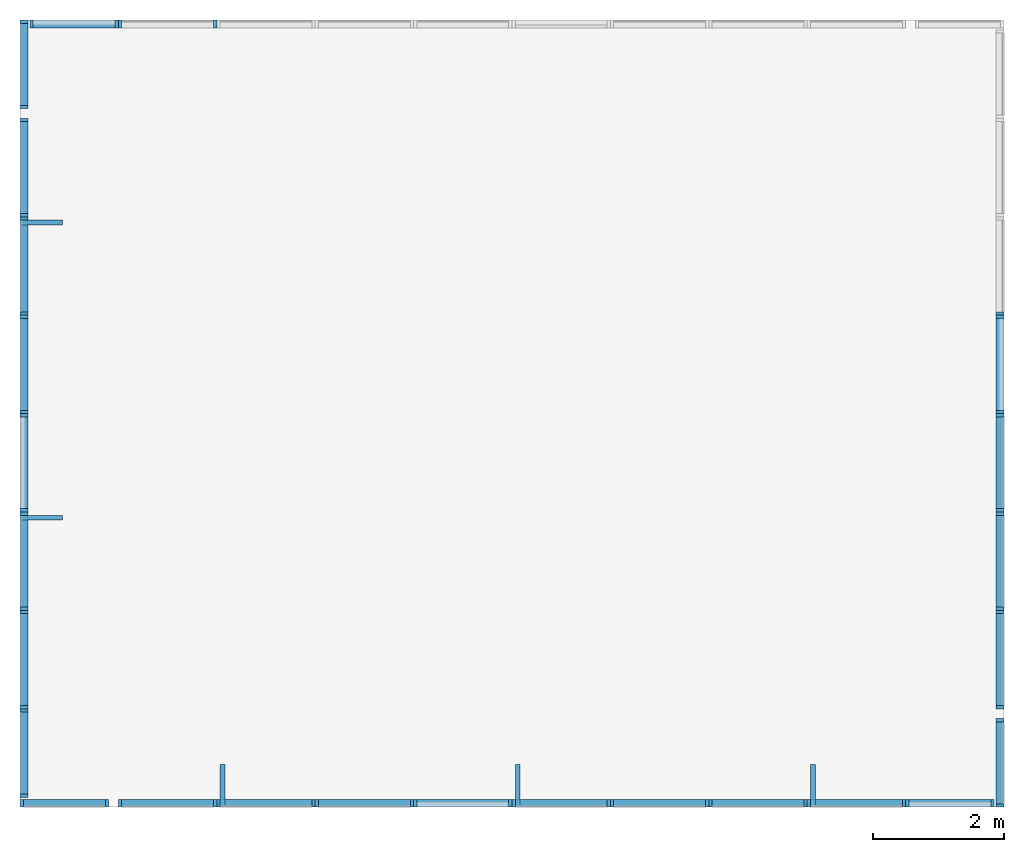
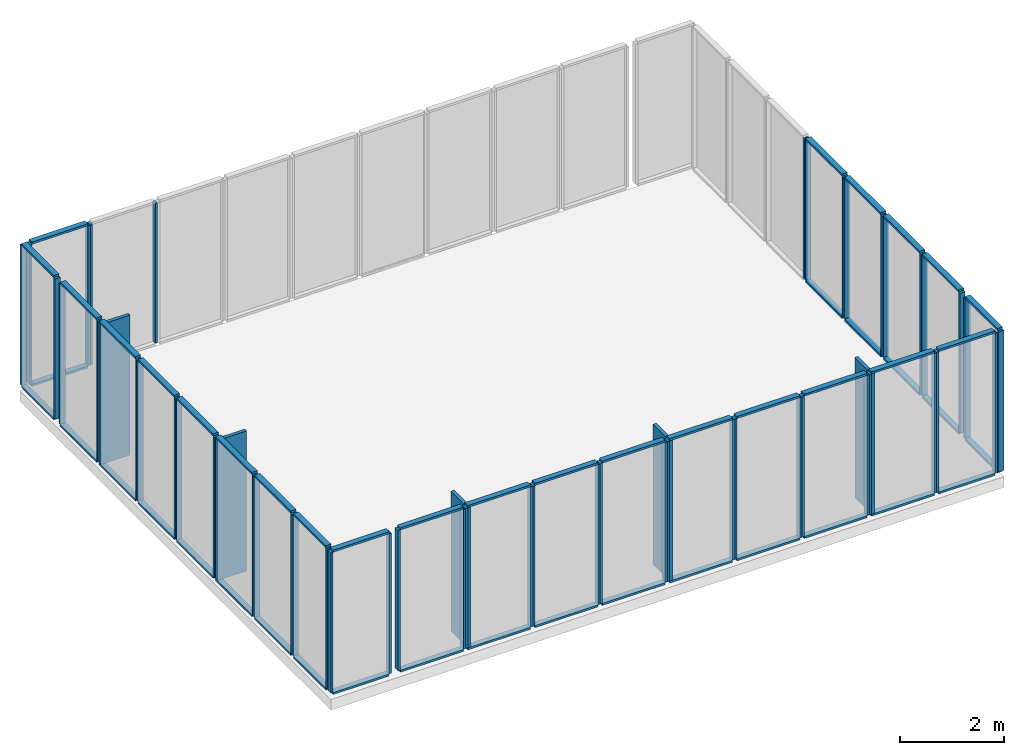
# One storey, part 1 of 2: 104 members.
"""IFC4 building model written with IfcOpenShell, lengths in metres."""

import ifcopenshell
import ifcopenshell.guid

model = None  # the IFC model being written
_history = None  # IfcOwnerHistory: only IFC2X3 demands one
_inside = {}  # id of a spatial element -> (the spatial element, [elements in it])
_under = {}  # id of a project, library or spatial element -> (it, [spatial elements below it])
_declared = {}  # id of a project -> (the project, [libraries it declares])
_typed = {}  # id of a type object -> (the type object, [elements of that type])
_made_of = {}  # id of a material, layer set ... -> (it, [elements and type objects made of it])


def new_model(schema):
    """Start an empty IFC model of exactly this schema.

    Asked for "IFC4X3", IfcOpenShell would pick the latest addendum, in which some entities
    have other attributes; the version numbers below select the first issue.
    IFC2X3 requires an IfcOwnerHistory on every rooted entity: one is made here for all.
    """
    global model, _history
    if schema == "IFC4X3":
        model = ifcopenshell.file(schema_version=(4, 3, 0, 0))
    else:
        model = ifcopenshell.file(schema=schema)
    _inside.clear()
    _under.clear()
    _declared.clear()
    _typed.clear()
    _made_of.clear()
    _history = None
    if model.schema == "IFC2X3":
        org = make("IfcOrganization", Name="unknown")
        user = make(
            "IfcPersonAndOrganization",
            ThePerson=make("IfcPerson", FamilyName="unknown"),
            TheOrganization=org,
        )
        app = make(
            "IfcApplication",
            ApplicationDeveloper=org,
            Version="unknown",
            ApplicationFullName="unknown",
            ApplicationIdentifier="unknown",
        )
        _history = make(
            "IfcOwnerHistory",
            OwningUser=user,
            OwningApplication=app,
            ChangeAction="ADDED",
            CreationDate=0,
        )
    return model


def make(cls, **values):
    """One entity of the class cls with the attributes given. An attribute that is None is left unset."""
    return model.create_entity(
        cls, **{name: value for name, value in values.items() if value is not None}
    )


def rooted(cls, **values):
    """An entity with a GlobalId (a new one), such as an element, a storey or a relation."""
    return make(cls, GlobalId=ifcopenshell.guid.new(), OwnerHistory=_history, **values)


def si_unit(unit_type, name, prefix=None):
    """IfcSIUnit, for example si_unit("LENGTHUNIT", "METRE", prefix="MILLI")."""
    return make("IfcSIUnit", UnitType=unit_type, Prefix=prefix, Name=name)


def assignment(units):
    """IfcUnitAssignment: the units of a project."""
    return None if units is None else make("IfcUnitAssignment", Units=units)


def point(xyz):
    """IfcCartesianPoint."""
    return None if xyz is None else make("IfcCartesianPoint", Coordinates=xyz)


def direction(xyz):
    """IfcDirection."""
    return None if xyz is None else make("IfcDirection", DirectionRatios=xyz)


def frame(location, z_axis=None, x_axis=None):
    """IfcAxis2Placement3D, a coordinate frame: its origin and axes. An axis left out is left unset."""
    return make(
        "IfcAxis2Placement3D",
        Location=point(location),
        Axis=direction(z_axis),
        RefDirection=direction(x_axis),
    )


def origin_with_axes():
    """The frame at (0, 0, 0) with the z axis (0, 0, 1) and the x axis (1, 0, 0) written out."""
    return frame((0.0, 0.0, 0.0), z_axis=(0.0, 0.0, 1.0), x_axis=(1.0, 0.0, 0.0))


def place(relative_to, where):
    """IfcLocalPlacement: puts the frame where relative to a parent placement (None: the world)."""
    return make(
        "IfcLocalPlacement", PlacementRelTo=relative_to, RelativePlacement=where
    )


def context(
    kind, dimensions, precision=None, world=None, true_north=None, identifier=None
):
    """IfcGeometricRepresentationContext, for example the 3D "Model" context."""
    return make(
        "IfcGeometricRepresentationContext",
        ContextIdentifier=identifier,
        ContextType=kind,
        CoordinateSpaceDimension=dimensions,
        Precision=precision,
        WorldCoordinateSystem=world,
        TrueNorth=true_north,
    )


def subcontext(parent, identifier, kind, view, scale=None):
    """IfcGeometricRepresentationSubContext, for example "Body" below "Model"."""
    return make(
        "IfcGeometricRepresentationSubContext",
        ContextIdentifier=identifier,
        ContextType=kind,
        ParentContext=parent,
        TargetScale=scale,
        TargetView=view,
    )


def project(units=None, contexts=None):
    """IfcProject with its units and contexts."""
    return rooted(
        "IfcProject",
        Name="project",
        RepresentationContexts=contexts,
        UnitsInContext=assignment(units),
    )


def spatial(cls, under=None, at=None, **own):
    """A site, building, storey or space (cls), placed at a placement, below another one or the project."""
    s = rooted(cls, ObjectPlacement=at, **own)
    if under is not None:
        _under.setdefault(under.id(), (under, []))[1].append(s)
    return s


def point_list(points):
    """IfcCartesianPointList2D or 3D."""
    cls = (
        "IfcCartesianPointList2D" if len(points[0]) == 2 else "IfcCartesianPointList3D"
    )
    return make(cls, CoordList=points)


def indexed_curve(points, segments=None, self_intersect=None):
    """IfcIndexedPolyCurve: lines and arcs through numbered points (the first is 1)."""
    return make(
        "IfcIndexedPolyCurve",
        Points=point_list(points),
        Segments=segments,
        SelfIntersect=self_intersect,
    )


def outline(outer, holes=None, kind="AREA"):
    """IfcArbitraryClosedProfileDef: a profile drawn as a closed curve; with holes, ...WithVoids."""
    if holes is None:
        return make("IfcArbitraryClosedProfileDef", ProfileType=kind, OuterCurve=outer)
    return make(
        "IfcArbitraryProfileDefWithVoids",
        ProfileType=kind,
        OuterCurve=outer,
        InnerCurves=holes,
    )


def extrude(swept, where, along, depth):
    """IfcExtrudedAreaSolid: the profile swept, set in the frame where, extruded along a direction by depth."""
    return make(
        "IfcExtrudedAreaSolid",
        SweptArea=swept,
        Position=where,
        ExtrudedDirection=direction(along),
        Depth=depth,
    )


def shape(context_of_items, identifier, shape_type, items):
    """IfcShapeRepresentation: the items that make up one representation, for example the "Body"."""
    return make(
        "IfcShapeRepresentation",
        ContextOfItems=context_of_items,
        RepresentationIdentifier=identifier,
        RepresentationType=shape_type,
        Items=items,
    )


def material(Name=None, Category=None):
    """IfcMaterial."""
    return make("IfcMaterial", Name=Name, Category=Category)


def made_of(thing, what):
    """Note that an element or type object is made of a material, layer set ...; save() writes the relation."""
    if what is not None:
        _made_of.setdefault(what.id(), (what, []))[1].append(thing)
    return thing


def element(
    cls,
    number,
    at=None,
    inside=None,
    cuts=None,
    type_object=None,
    material=None,
    context=None,
    identifier="Body",
    shape_type=None,
    held_by="IfcProductDefinitionShape",
    body=None,
    shapes=None,
    **own,
):
    """One element of the class cls, such as IfcWall. Its Tag is "e" and its number.

    at: its placement. inside: the storey or other place that contains it. cuts: it is an
    opening in that element (IfcRelVoidsElement). A single representation is given by context,
    identifier, shape_type and body (its items); several are given by shapes. held_by: the class
    of the entity that holds the representations. save() writes the other relations.
    """
    e = rooted(cls, Tag="e%d" % number, ObjectPlacement=at, **own)
    if body is not None:
        shapes = [shape(context, identifier, shape_type, body)]
    if shapes is not None:
        e.Representation = make(held_by, Representations=shapes)
    if inside is not None:
        _inside.setdefault(inside.id(), (inside, []))[1].append(e)
    if cuts is not None:
        rooted(
            "IfcRelVoidsElement", RelatingBuildingElement=cuts, RelatedOpeningElement=e
        )
    if type_object is not None:
        _typed.setdefault(type_object.id(), (type_object, []))[1].append(e)
    return made_of(e, material)


def aggregate(whole, parts):
    """IfcRelAggregates: a whole, such as a stair, and the parts it consists of."""
    return rooted("IfcRelAggregates", RelatingObject=whole, RelatedObjects=parts)


def save(model, path):
    """Write the relations noted so far, then the file.

    IfcRelAggregates (storeys below a building ...), IfcRelContainedInSpatialStructure (elements
    in a storey), IfcRelDefinesByType, IfcRelAssociatesMaterial and IfcRelDeclares: one each for
    every whole, place, type object, material and project.
    """
    for whole, parts in _under.values():
        aggregate(whole, parts)
    for where, things in _inside.values():
        rooted(
            "IfcRelContainedInSpatialStructure",
            RelatedElements=things,
            RelatingStructure=where,
        )
    for kind, things in _typed.values():
        rooted("IfcRelDefinesByType", RelatedObjects=things, RelatingType=kind)
    for what, things in _made_of.values():
        rooted("IfcRelAssociatesMaterial", RelatedObjects=things, RelatingMaterial=what)
    for by, libraries in _declared.values():
        rooted("IfcRelDeclares", RelatingContext=by, RelatedDefinitions=libraries)
    model.write(path)


model = new_model("IFC4")

# Units and contexts
model_context = context("Model", 3, precision=1e-05, world=origin_with_axes())
body_context = subcontext(model_context, "Body", "Model", "MODEL_VIEW")
ifc_project = project(units=[si_unit("AREAUNIT", "SQUARE_METRE"), si_unit("VOLUMEUNIT", "CUBIC_METRE"), si_unit("LENGTHUNIT", "METRE")], contexts=[model_context])

# Site, building, storey
site = spatial("IfcSite", under=ifc_project, Name="Synthetic Site")
building = spatial("IfcBuilding", under=site, Name="Complex Tower")
storey_placement = place(None, frame((0.0, 0.0, 37.8), z_axis=(0.0, 0.0, 1.0), x_axis=(1.0, 0.0, 0.0)))
storey = spatial("IfcBuildingStorey", under=building, at=storey_placement, Name="L11", Elevation=37.8)

# Members
ifc_material = material(Name="Aluminium")
for number, where, z_axis, x_axis, name in (
    (1, (6.0, 3.0, 0.14999999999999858), (0.0, 0.0, 1.0), (1.0, 0.0, 0.0), "CT-L11-S-001-ML"),
    (2, (7.3, 3.0, 0.14999999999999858), (0.0, 0.0, 1.0), (1.0, 0.0, 0.0), "CT-L11-S-001-MR"),
):
    element("IfcMember", number, at=place(storey_placement, frame(where, z_axis=z_axis, x_axis=x_axis)), inside=storey, material=ifc_material, Name=name, PredefinedType="MULLION", context=body_context, shape_type="SweptSolid", body=[
        extrude(outline(indexed_curve([(0.0, 0.0), (0.0, 0.12), (0.05, 0.12), (0.05, 0.0), (0.0, 0.0)], self_intersect=False)), origin_with_axes(), (0.0, 0.0, 1.0), 3.3000000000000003),
    ])
for number, where, z_axis, x_axis, name in (
    (3, (6.05, 3.0, 0.10000000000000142), (0.0, 0.0, 1.0), (1.0, 0.0, 0.0), "CT-L11-S-001-FB"),
    (4, (6.05, 3.0, 3.4499999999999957), (0.0, 0.0, 1.0), (1.0, 0.0, 0.0), "CT-L11-S-001-FT"),
):
    element("IfcMember", number, at=place(storey_placement, frame(where, z_axis=z_axis, x_axis=x_axis)), inside=storey, material=ifc_material, Name=name, PredefinedType="MULLION", context=body_context, shape_type="SweptSolid", body=[
        extrude(outline(indexed_curve([(0.0, 0.0), (0.0, 0.12), (1.25, 0.12), (1.25, 0.0), (0.0, 0.0)], self_intersect=False)), origin_with_axes(), (0.0, 0.0, 1.0), 0.05),
    ])
for number, where, z_axis, x_axis, name in (
    (5, (7.5, 3.0, 0.14999999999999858), (0.0, 0.0, 1.0), (1.0, 0.0, 0.0), "CT-L11-S-002-ML"),
    (6, (8.95, 3.0, 0.14999999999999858), (0.0, 0.0, 1.0), (1.0, 0.0, 0.0), "CT-L11-S-002-MR"),
):
    element("IfcMember", number, at=place(storey_placement, frame(where, z_axis=z_axis, x_axis=x_axis)), inside=storey, material=ifc_material, Name=name, PredefinedType="MULLION", context=body_context, shape_type="SweptSolid", body=[
        extrude(outline(indexed_curve([(0.0, 0.0), (0.0, 0.12), (0.05, 0.12), (0.05, 0.0), (0.0, 0.0)], self_intersect=False)), origin_with_axes(), (0.0, 0.0, 1.0), 3.3000000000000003),
    ])
for number, where, z_axis, x_axis, name in (
    (7, (7.55, 3.0, 0.10000000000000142), (0.0, 0.0, 1.0), (1.0, 0.0, 0.0), "CT-L11-S-002-FB"),
    (8, (7.55, 3.0, 3.4499999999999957), (0.0, 0.0, 1.0), (1.0, 0.0, 0.0), "CT-L11-S-002-FT"),
):
    element("IfcMember", number, at=place(storey_placement, frame(where, z_axis=z_axis, x_axis=x_axis)), inside=storey, material=ifc_material, Name=name, PredefinedType="MULLION", context=body_context, shape_type="SweptSolid", body=[
        extrude(outline(indexed_curve([(0.0, 0.0), (0.0, 0.12), (1.4, 0.12), (1.4, 0.0), (0.0, 0.0)], self_intersect=False)), origin_with_axes(), (0.0, 0.0, 1.0), 0.05),
    ])
for number, where, z_axis, x_axis, name in (
    (9, (9.0, 3.0, 0.14999999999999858), (0.0, 0.0, 1.0), (1.0, 0.0, 0.0), "CT-L11-S-003-ML"),
    (10, (10.450000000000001, 3.0, 0.14999999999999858), (0.0, 0.0, 1.0), (1.0, 0.0, 0.0), "CT-L11-S-003-MR"),
):
    element("IfcMember", number, at=place(storey_placement, frame(where, z_axis=z_axis, x_axis=x_axis)), inside=storey, material=ifc_material, Name=name, PredefinedType="MULLION", context=body_context, shape_type="SweptSolid", body=[
        extrude(outline(indexed_curve([(0.0, 0.0), (0.0, 0.12), (0.05, 0.12), (0.05, 0.0), (0.0, 0.0)], self_intersect=False)), origin_with_axes(), (0.0, 0.0, 1.0), 3.3000000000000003),
    ])
for number, where, z_axis, x_axis, name in (
    (11, (9.05, 3.0, 0.10000000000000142), (0.0, 0.0, 1.0), (1.0, 0.0, 0.0), "CT-L11-S-003-FB"),
    (12, (9.05, 3.0, 3.4499999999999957), (0.0, 0.0, 1.0), (1.0, 0.0, 0.0), "CT-L11-S-003-FT"),
):
    element("IfcMember", number, at=place(storey_placement, frame(where, z_axis=z_axis, x_axis=x_axis)), inside=storey, material=ifc_material, Name=name, PredefinedType="MULLION", context=body_context, shape_type="SweptSolid", body=[
        extrude(outline(indexed_curve([(0.0, 0.0), (0.0, 0.12), (1.4, 0.12), (1.4, 0.0), (0.0, 0.0)], self_intersect=False)), origin_with_axes(), (0.0, 0.0, 1.0), 0.05),
    ])
member_1_placement = place(storey_placement, frame((9.05, 3.0, 0.14999999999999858), z_axis=(0.0, 0.0, 1.0), x_axis=(1.0, 0.0, 0.0)))
element("IfcMember", 13, at=member_1_placement, inside=storey, material=ifc_material, Name="CT-L11-S-003-FIN", ObjectType="Solar shading", PredefinedType="USERDEFINED", context=body_context, shape_type="SweptSolid", body=[
    extrude(outline(indexed_curve([(0.0, 0.0), (0.0, 0.65), (0.075, 0.65), (0.075, 0.0), (0.0, 0.0)], self_intersect=False)), origin_with_axes(), (0.0, 0.0, 1.0), 3.3000000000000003),
])
for number, where, z_axis, x_axis, name in (
    (14, (10.5, 3.0, 0.14999999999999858), (0.0, 0.0, 1.0), (1.0, 0.0, 0.0), "CT-L11-S-004-ML"),
    (15, (11.950000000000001, 3.0, 0.14999999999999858), (0.0, 0.0, 1.0), (1.0, 0.0, 0.0), "CT-L11-S-004-MR"),
):
    element("IfcMember", number, at=place(storey_placement, frame(where, z_axis=z_axis, x_axis=x_axis)), inside=storey, material=ifc_material, Name=name, PredefinedType="MULLION", context=body_context, shape_type="SweptSolid", body=[
        extrude(outline(indexed_curve([(0.0, 0.0), (0.0, 0.12), (0.05, 0.12), (0.05, 0.0), (0.0, 0.0)], self_intersect=False)), origin_with_axes(), (0.0, 0.0, 1.0), 3.3000000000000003),
    ])
for number, where, z_axis, x_axis, name in (
    (16, (10.55, 3.0, 0.10000000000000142), (0.0, 0.0, 1.0), (1.0, 0.0, 0.0), "CT-L11-S-004-FB"),
    (17, (10.55, 3.0, 3.4499999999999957), (0.0, 0.0, 1.0), (1.0, 0.0, 0.0), "CT-L11-S-004-FT"),
):
    element("IfcMember", number, at=place(storey_placement, frame(where, z_axis=z_axis, x_axis=x_axis)), inside=storey, material=ifc_material, Name=name, PredefinedType="MULLION", context=body_context, shape_type="SweptSolid", body=[
        extrude(outline(indexed_curve([(0.0, 0.0), (0.0, 0.12), (1.4, 0.12), (1.4, 0.0), (0.0, 0.0)], self_intersect=False)), origin_with_axes(), (0.0, 0.0, 1.0), 0.05),
    ])
for number, where, z_axis, x_axis, name in (
    (18, (12.0, 3.0, 0.14999999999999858), (0.0, 0.0, 1.0), (1.0, 0.0, 0.0), "CT-L11-S-005-ML"),
    (19, (13.450000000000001, 3.0, 0.14999999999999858), (0.0, 0.0, 1.0), (1.0, 0.0, 0.0), "CT-L11-S-005-MR"),
):
    element("IfcMember", number, at=place(storey_placement, frame(where, z_axis=z_axis, x_axis=x_axis)), inside=storey, material=ifc_material, Name=name, PredefinedType="MULLION", context=body_context, shape_type="SweptSolid", body=[
        extrude(outline(indexed_curve([(0.0, 0.0), (0.0, 0.12), (0.05, 0.12), (0.05, 0.0), (0.0, 0.0)], self_intersect=False)), origin_with_axes(), (0.0, 0.0, 1.0), 3.3000000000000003),
    ])
for number, where, z_axis, x_axis, name in (
    (20, (12.05, 3.0, 0.10000000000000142), (0.0, 0.0, 1.0), (1.0, 0.0, 0.0), "CT-L11-S-005-FB"),
    (21, (12.05, 3.0, 3.4499999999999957), (0.0, 0.0, 1.0), (1.0, 0.0, 0.0), "CT-L11-S-005-FT"),
):
    element("IfcMember", number, at=place(storey_placement, frame(where, z_axis=z_axis, x_axis=x_axis)), inside=storey, material=ifc_material, Name=name, PredefinedType="MULLION", context=body_context, shape_type="SweptSolid", body=[
        extrude(outline(indexed_curve([(0.0, 0.0), (0.0, 0.12), (1.4, 0.12), (1.4, 0.0), (0.0, 0.0)], self_intersect=False)), origin_with_axes(), (0.0, 0.0, 1.0), 0.05),
    ])
for number, where, z_axis, x_axis, name in (
    (22, (13.5, 3.0, 0.14999999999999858), (0.0, 0.0, 1.0), (1.0, 0.0, 0.0), "CT-L11-S-006-ML"),
    (23, (14.950000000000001, 3.0, 0.14999999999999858), (0.0, 0.0, 1.0), (1.0, 0.0, 0.0), "CT-L11-S-006-MR"),
):
    element("IfcMember", number, at=place(storey_placement, frame(where, z_axis=z_axis, x_axis=x_axis)), inside=storey, material=ifc_material, Name=name, PredefinedType="MULLION", context=body_context, shape_type="SweptSolid", body=[
        extrude(outline(indexed_curve([(0.0, 0.0), (0.0, 0.12), (0.05, 0.12), (0.05, 0.0), (0.0, 0.0)], self_intersect=False)), origin_with_axes(), (0.0, 0.0, 1.0), 3.3000000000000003),
    ])
for number, where, z_axis, x_axis, name in (
    (24, (13.55, 3.0, 0.10000000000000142), (0.0, 0.0, 1.0), (1.0, 0.0, 0.0), "CT-L11-S-006-FB"),
    (25, (13.55, 3.0, 3.4499999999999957), (0.0, 0.0, 1.0), (1.0, 0.0, 0.0), "CT-L11-S-006-FT"),
):
    element("IfcMember", number, at=place(storey_placement, frame(where, z_axis=z_axis, x_axis=x_axis)), inside=storey, material=ifc_material, Name=name, PredefinedType="MULLION", context=body_context, shape_type="SweptSolid", body=[
        extrude(outline(indexed_curve([(0.0, 0.0), (0.0, 0.12), (1.4, 0.12), (1.4, 0.0), (0.0, 0.0)], self_intersect=False)), origin_with_axes(), (0.0, 0.0, 1.0), 0.05),
    ])
member_2_placement = place(storey_placement, frame((13.55, 3.0, 0.14999999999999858), z_axis=(0.0, 0.0, 1.0), x_axis=(1.0, 0.0, 0.0)))
element("IfcMember", 26, at=member_2_placement, inside=storey, material=ifc_material, Name="CT-L11-S-006-FIN", ObjectType="Solar shading", PredefinedType="USERDEFINED", context=body_context, shape_type="SweptSolid", body=[
    extrude(outline(indexed_curve([(0.0, 0.0), (0.0, 0.65), (0.075, 0.65), (0.075, 0.0), (0.0, 0.0)], self_intersect=False)), origin_with_axes(), (0.0, 0.0, 1.0), 3.3000000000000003),
])
for number, where, z_axis, x_axis, name in (
    (27, (15.0, 3.0, 0.14999999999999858), (0.0, 0.0, 1.0), (1.0, 0.0, 0.0), "CT-L11-S-007-ML"),
    (28, (16.45, 3.0, 0.14999999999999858), (0.0, 0.0, 1.0), (1.0, 0.0, 0.0), "CT-L11-S-007-MR"),
):
    element("IfcMember", number, at=place(storey_placement, frame(where, z_axis=z_axis, x_axis=x_axis)), inside=storey, material=ifc_material, Name=name, PredefinedType="MULLION", context=body_context, shape_type="SweptSolid", body=[
        extrude(outline(indexed_curve([(0.0, 0.0), (0.0, 0.12), (0.05, 0.12), (0.05, 0.0), (0.0, 0.0)], self_intersect=False)), origin_with_axes(), (0.0, 0.0, 1.0), 3.3000000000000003),
    ])
for number, where, z_axis, x_axis, name in (
    (29, (15.05, 3.0, 0.10000000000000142), (0.0, 0.0, 1.0), (1.0, 0.0, 0.0), "CT-L11-S-007-FB"),
    (30, (15.05, 3.0, 3.4499999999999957), (0.0, 0.0, 1.0), (1.0, 0.0, 0.0), "CT-L11-S-007-FT"),
):
    element("IfcMember", number, at=place(storey_placement, frame(where, z_axis=z_axis, x_axis=x_axis)), inside=storey, material=ifc_material, Name=name, PredefinedType="MULLION", context=body_context, shape_type="SweptSolid", body=[
        extrude(outline(indexed_curve([(0.0, 0.0), (0.0, 0.12), (1.4, 0.12), (1.4, 0.0), (0.0, 0.0)], self_intersect=False)), origin_with_axes(), (0.0, 0.0, 1.0), 0.05),
    ])
for number, where, z_axis, x_axis, name in (
    (31, (16.5, 3.0, 0.14999999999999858), (0.0, 0.0, 1.0), (1.0, 0.0, 0.0), "CT-L11-S-008-ML"),
    (32, (17.95, 3.0, 0.14999999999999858), (0.0, 0.0, 1.0), (1.0, 0.0, 0.0), "CT-L11-S-008-MR"),
):
    element("IfcMember", number, at=place(storey_placement, frame(where, z_axis=z_axis, x_axis=x_axis)), inside=storey, material=ifc_material, Name=name, PredefinedType="MULLION", context=body_context, shape_type="SweptSolid", body=[
        extrude(outline(indexed_curve([(0.0, 0.0), (0.0, 0.12), (0.05, 0.12), (0.05, 0.0), (0.0, 0.0)], self_intersect=False)), origin_with_axes(), (0.0, 0.0, 1.0), 3.3000000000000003),
    ])
for number, where, z_axis, x_axis, name in (
    (33, (16.55, 3.0, 0.10000000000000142), (0.0, 0.0, 1.0), (1.0, 0.0, 0.0), "CT-L11-S-008-FB"),
    (34, (16.55, 3.0, 3.4499999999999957), (0.0, 0.0, 1.0), (1.0, 0.0, 0.0), "CT-L11-S-008-FT"),
):
    element("IfcMember", number, at=place(storey_placement, frame(where, z_axis=z_axis, x_axis=x_axis)), inside=storey, material=ifc_material, Name=name, PredefinedType="MULLION", context=body_context, shape_type="SweptSolid", body=[
        extrude(outline(indexed_curve([(0.0, 0.0), (0.0, 0.12), (1.4, 0.12), (1.4, 0.0), (0.0, 0.0)], self_intersect=False)), origin_with_axes(), (0.0, 0.0, 1.0), 0.05),
    ])
for number, where, z_axis, x_axis, name in (
    (35, (18.0, 3.0, 0.14999999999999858), (0.0, 0.0, 1.0), (1.0, 0.0, 0.0), "CT-L11-S-009-ML"),
    (36, (19.45, 3.0, 0.14999999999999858), (0.0, 0.0, 1.0), (1.0, 0.0, 0.0), "CT-L11-S-009-MR"),
):
    element("IfcMember", number, at=place(storey_placement, frame(where, z_axis=z_axis, x_axis=x_axis)), inside=storey, material=ifc_material, Name=name, PredefinedType="MULLION", context=body_context, shape_type="SweptSolid", body=[
        extrude(outline(indexed_curve([(0.0, 0.0), (0.0, 0.12), (0.05, 0.12), (0.05, 0.0), (0.0, 0.0)], self_intersect=False)), origin_with_axes(), (0.0, 0.0, 1.0), 3.3000000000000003),
    ])
for number, where, z_axis, x_axis, name in (
    (37, (18.05, 3.0, 0.10000000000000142), (0.0, 0.0, 1.0), (1.0, 0.0, 0.0), "CT-L11-S-009-FB"),
    (38, (18.05, 3.0, 3.4499999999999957), (0.0, 0.0, 1.0), (1.0, 0.0, 0.0), "CT-L11-S-009-FT"),
):
    element("IfcMember", number, at=place(storey_placement, frame(where, z_axis=z_axis, x_axis=x_axis)), inside=storey, material=ifc_material, Name=name, PredefinedType="MULLION", context=body_context, shape_type="SweptSolid", body=[
        extrude(outline(indexed_curve([(0.0, 0.0), (0.0, 0.12), (1.4, 0.12), (1.4, 0.0), (0.0, 0.0)], self_intersect=False)), origin_with_axes(), (0.0, 0.0, 1.0), 0.05),
    ])
member_3_placement = place(storey_placement, frame((18.05, 3.0, 0.14999999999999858), z_axis=(0.0, 0.0, 1.0), x_axis=(1.0, 0.0, 0.0)))
element("IfcMember", 39, at=member_3_placement, inside=storey, material=ifc_material, Name="CT-L11-S-009-FIN", ObjectType="Solar shading", PredefinedType="USERDEFINED", context=body_context, shape_type="SweptSolid", body=[
    extrude(outline(indexed_curve([(0.0, 0.0), (0.0, 0.65), (0.075, 0.65), (0.075, 0.0), (0.0, 0.0)], self_intersect=False)), origin_with_axes(), (0.0, 0.0, 1.0), 3.3000000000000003),
])
for number, where, z_axis, x_axis, name in (
    (40, (19.5, 3.0, 0.14999999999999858), (0.0, 0.0, 1.0), (1.0, 0.0, 0.0), "CT-L11-S-010-ML"),
    (41, (20.8, 3.0, 0.14999999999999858), (0.0, 0.0, 1.0), (1.0, 0.0, 0.0), "CT-L11-S-010-MR"),
):
    element("IfcMember", number, at=place(storey_placement, frame(where, z_axis=z_axis, x_axis=x_axis)), inside=storey, material=ifc_material, Name=name, PredefinedType="MULLION", context=body_context, shape_type="SweptSolid", body=[
        extrude(outline(indexed_curve([(0.0, 0.0), (0.0, 0.12), (0.05, 0.12), (0.05, 0.0), (0.0, 0.0)], self_intersect=False)), origin_with_axes(), (0.0, 0.0, 1.0), 3.3000000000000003),
    ])
for number, where, z_axis, x_axis, name in (
    (42, (19.55, 3.0, 0.10000000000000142), (0.0, 0.0, 1.0), (1.0, 0.0, 0.0), "CT-L11-S-010-FB"),
    (43, (19.55, 3.0, 3.4499999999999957), (0.0, 0.0, 1.0), (1.0, 0.0, 0.0), "CT-L11-S-010-FT"),
):
    element("IfcMember", number, at=place(storey_placement, frame(where, z_axis=z_axis, x_axis=x_axis)), inside=storey, material=ifc_material, Name=name, PredefinedType="MULLION", context=body_context, shape_type="SweptSolid", body=[
        extrude(outline(indexed_curve([(0.0, 0.0), (0.0, 0.12), (1.25, 0.12), (1.25, 0.0), (0.0, 0.0)], self_intersect=False)), origin_with_axes(), (0.0, 0.0, 1.0), 0.05),
    ])
for number, where, z_axis, x_axis, name in (
    (44, (21.0, 3.0, 0.14999999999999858), (0.0, 0.0, 1.0), (6.123233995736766e-17, 1.0, 0.0), "CT-L11-E-001-ML"),
    (45, (21.0, 4.3, 0.14999999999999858), (0.0, 0.0, 1.0), (6.123233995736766e-17, 1.0, 0.0), "CT-L11-E-001-MR"),
):
    element("IfcMember", number, at=place(storey_placement, frame(where, z_axis=z_axis, x_axis=x_axis)), inside=storey, material=ifc_material, Name=name, PredefinedType="MULLION", context=body_context, shape_type="SweptSolid", body=[
        extrude(outline(indexed_curve([(0.0, 0.0), (0.0, 0.12), (0.05, 0.12), (0.05, 0.0), (0.0, 0.0)], self_intersect=False)), origin_with_axes(), (0.0, 0.0, 1.0), 3.3000000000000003),
    ])
for number, where, z_axis, x_axis, name in (
    (46, (21.0, 3.05, 0.10000000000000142), (0.0, 0.0, 1.0), (6.123233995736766e-17, 1.0, 0.0), "CT-L11-E-001-FB"),
    (47, (21.0, 3.05, 3.4499999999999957), (0.0, 0.0, 1.0), (6.123233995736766e-17, 1.0, 0.0), "CT-L11-E-001-FT"),
):
    element("IfcMember", number, at=place(storey_placement, frame(where, z_axis=z_axis, x_axis=x_axis)), inside=storey, material=ifc_material, Name=name, PredefinedType="MULLION", context=body_context, shape_type="SweptSolid", body=[
        extrude(outline(indexed_curve([(0.0, 0.0), (0.0, 0.12), (1.25, 0.12), (1.25, 0.0), (0.0, 0.0)], self_intersect=False)), origin_with_axes(), (0.0, 0.0, 1.0), 0.05),
    ])
for number, where, z_axis, x_axis, name in (
    (48, (21.0, 4.5, 0.14999999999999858), (0.0, 0.0, 1.0), (6.123233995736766e-17, 1.0, 0.0), "CT-L11-E-002-ML"),
    (49, (21.0, 5.949999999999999, 0.14999999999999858), (0.0, 0.0, 1.0), (6.123233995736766e-17, 1.0, 0.0), "CT-L11-E-002-MR"),
):
    element("IfcMember", number, at=place(storey_placement, frame(where, z_axis=z_axis, x_axis=x_axis)), inside=storey, material=ifc_material, Name=name, PredefinedType="MULLION", context=body_context, shape_type="SweptSolid", body=[
        extrude(outline(indexed_curve([(0.0, 0.0), (0.0, 0.12), (0.05, 0.12), (0.05, 0.0), (0.0, 0.0)], self_intersect=False)), origin_with_axes(), (0.0, 0.0, 1.0), 3.3000000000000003),
    ])
for number, where, z_axis, x_axis, name in (
    (50, (21.0, 4.55, 0.10000000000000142), (0.0, 0.0, 1.0), (6.123233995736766e-17, 1.0, 0.0), "CT-L11-E-002-FB"),
    (51, (21.0, 4.55, 3.4499999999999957), (0.0, 0.0, 1.0), (6.123233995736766e-17, 1.0, 0.0), "CT-L11-E-002-FT"),
):
    element("IfcMember", number, at=place(storey_placement, frame(where, z_axis=z_axis, x_axis=x_axis)), inside=storey, material=ifc_material, Name=name, PredefinedType="MULLION", context=body_context, shape_type="SweptSolid", body=[
        extrude(outline(indexed_curve([(0.0, 0.0), (0.0, 0.12), (1.4, 0.12), (1.4, 0.0), (0.0, 0.0)], self_intersect=False)), origin_with_axes(), (0.0, 0.0, 1.0), 0.05),
    ])
for number, where, z_axis, x_axis, name in (
    (52, (21.0, 6.0, 0.14999999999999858), (0.0, 0.0, 1.0), (6.123233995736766e-17, 1.0, 0.0), "CT-L11-E-003-ML"),
    (53, (21.0, 7.449999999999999, 0.14999999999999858), (0.0, 0.0, 1.0), (6.123233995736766e-17, 1.0, 0.0), "CT-L11-E-003-MR"),
):
    element("IfcMember", number, at=place(storey_placement, frame(where, z_axis=z_axis, x_axis=x_axis)), inside=storey, material=ifc_material, Name=name, PredefinedType="MULLION", context=body_context, shape_type="SweptSolid", body=[
        extrude(outline(indexed_curve([(0.0, 0.0), (0.0, 0.12), (0.05, 0.12), (0.05, 0.0), (0.0, 0.0)], self_intersect=False)), origin_with_axes(), (0.0, 0.0, 1.0), 3.3000000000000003),
    ])
for number, where, z_axis, x_axis, name in (
    (54, (21.0, 6.05, 0.10000000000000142), (0.0, 0.0, 1.0), (6.123233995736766e-17, 1.0, 0.0), "CT-L11-E-003-FB"),
    (55, (21.0, 6.05, 3.4499999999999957), (0.0, 0.0, 1.0), (6.123233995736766e-17, 1.0, 0.0), "CT-L11-E-003-FT"),
):
    element("IfcMember", number, at=place(storey_placement, frame(where, z_axis=z_axis, x_axis=x_axis)), inside=storey, material=ifc_material, Name=name, PredefinedType="MULLION", context=body_context, shape_type="SweptSolid", body=[
        extrude(outline(indexed_curve([(0.0, 0.0), (0.0, 0.12), (1.4, 0.12), (1.4, 0.0), (0.0, 0.0)], self_intersect=False)), origin_with_axes(), (0.0, 0.0, 1.0), 0.05),
    ])
for number, where, z_axis, x_axis, name in (
    (56, (21.0, 7.5, 0.14999999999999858), (0.0, 0.0, 1.0), (6.123233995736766e-17, 1.0, 0.0), "CT-L11-E-004-ML"),
    (57, (21.0, 8.95, 0.14999999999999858), (0.0, 0.0, 1.0), (6.123233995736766e-17, 1.0, 0.0), "CT-L11-E-004-MR"),
):
    element("IfcMember", number, at=place(storey_placement, frame(where, z_axis=z_axis, x_axis=x_axis)), inside=storey, material=ifc_material, Name=name, PredefinedType="MULLION", context=body_context, shape_type="SweptSolid", body=[
        extrude(outline(indexed_curve([(0.0, 0.0), (0.0, 0.12), (0.05, 0.12), (0.05, 0.0), (0.0, 0.0)], self_intersect=False)), origin_with_axes(), (0.0, 0.0, 1.0), 3.3000000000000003),
    ])
for number, where, z_axis, x_axis, name in (
    (58, (21.0, 7.55, 0.10000000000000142), (0.0, 0.0, 1.0), (6.123233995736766e-17, 1.0, 0.0), "CT-L11-E-004-FB"),
    (59, (21.0, 7.55, 3.4499999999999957), (0.0, 0.0, 1.0), (6.123233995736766e-17, 1.0, 0.0), "CT-L11-E-004-FT"),
):
    element("IfcMember", number, at=place(storey_placement, frame(where, z_axis=z_axis, x_axis=x_axis)), inside=storey, material=ifc_material, Name=name, PredefinedType="MULLION", context=body_context, shape_type="SweptSolid", body=[
        extrude(outline(indexed_curve([(0.0, 0.0), (0.0, 0.12), (1.4, 0.12), (1.4, 0.0), (0.0, 0.0)], self_intersect=False)), origin_with_axes(), (0.0, 0.0, 1.0), 0.05),
    ])
for number, where, z_axis, x_axis, name in (
    (60, (21.0, 9.0, 0.14999999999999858), (0.0, 0.0, 1.0), (6.123233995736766e-17, 1.0, 0.0), "CT-L11-E-005-ML"),
    (61, (21.0, 10.450000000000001, 0.14999999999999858), (0.0, 0.0, 1.0), (6.123233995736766e-17, 1.0, 0.0), "CT-L11-E-005-MR"),
):
    element("IfcMember", number, at=place(storey_placement, frame(where, z_axis=z_axis, x_axis=x_axis)), inside=storey, material=ifc_material, Name=name, PredefinedType="MULLION", context=body_context, shape_type="SweptSolid", body=[
        extrude(outline(indexed_curve([(0.0, 0.0), (0.0, 0.12), (0.05, 0.12), (0.05, 0.0), (0.0, 0.0)], self_intersect=False)), origin_with_axes(), (0.0, 0.0, 1.0), 3.3000000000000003),
    ])
for number, where, z_axis, x_axis, name in (
    (62, (21.0, 9.05, 0.10000000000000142), (0.0, 0.0, 1.0), (6.123233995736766e-17, 1.0, 0.0), "CT-L11-E-005-FB"),
    (63, (21.0, 9.05, 3.4499999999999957), (0.0, 0.0, 1.0), (6.123233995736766e-17, 1.0, 0.0), "CT-L11-E-005-FT"),
):
    element("IfcMember", number, at=place(storey_placement, frame(where, z_axis=z_axis, x_axis=x_axis)), inside=storey, material=ifc_material, Name=name, PredefinedType="MULLION", context=body_context, shape_type="SweptSolid", body=[
        extrude(outline(indexed_curve([(0.0, 0.0), (0.0, 0.12), (1.4, 0.12), (1.4, 0.0), (0.0, 0.0)], self_intersect=False)), origin_with_axes(), (0.0, 0.0, 1.0), 0.05),
    ])
for number, where, z_axis, x_axis, name in (
    (64, (21.0, 10.5, 0.14999999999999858), (0.0, 0.0, 1.0), (6.123233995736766e-17, 1.0, 0.0), "CT-L11-E-006-ML"),
    (65, (9.0, 15.000000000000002, 0.14999999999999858), (0.0, 0.0, 1.0), (-1.0, 1.2246467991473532e-16, 0.0), "CT-L11-N-009-ML"),
    (66, (7.549999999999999, 15.000000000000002, 0.14999999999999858), (0.0, 0.0, 1.0), (-1.0, 1.2246467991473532e-16, 0.0), "CT-L11-N-009-MR"),
    (67, (7.499999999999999, 15.000000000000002, 0.14999999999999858), (0.0, 0.0, 1.0), (-1.0, 1.2246467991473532e-16, 0.0), "CT-L11-N-010-ML"),
    (68, (6.199999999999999, 15.000000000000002, 0.14999999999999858), (0.0, 0.0, 1.0), (-1.0, 1.2246467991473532e-16, 0.0), "CT-L11-N-010-MR"),
):
    element("IfcMember", number, at=place(storey_placement, frame(where, z_axis=z_axis, x_axis=x_axis)), inside=storey, material=ifc_material, Name=name, PredefinedType="MULLION", context=body_context, shape_type="SweptSolid", body=[
        extrude(outline(indexed_curve([(0.0, 0.0), (0.0, 0.12), (0.05, 0.12), (0.05, 0.0), (0.0, 0.0)], self_intersect=False)), origin_with_axes(), (0.0, 0.0, 1.0), 3.3000000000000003),
    ])
for number, where, z_axis, x_axis, name in (
    (69, (7.449999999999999, 15.000000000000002, 0.10000000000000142), (0.0, 0.0, 1.0), (-1.0, 1.2246467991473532e-16, 0.0), "CT-L11-N-010-FB"),
    (70, (7.449999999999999, 15.000000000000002, 3.4499999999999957), (0.0, 0.0, 1.0), (-1.0, 1.2246467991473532e-16, 0.0), "CT-L11-N-010-FT"),
):
    element("IfcMember", number, at=place(storey_placement, frame(where, z_axis=z_axis, x_axis=x_axis)), inside=storey, material=ifc_material, Name=name, PredefinedType="MULLION", context=body_context, shape_type="SweptSolid", body=[
        extrude(outline(indexed_curve([(0.0, 0.0), (0.0, 0.12), (1.25, 0.12), (1.25, 0.0), (0.0, 0.0)], self_intersect=False)), origin_with_axes(), (0.0, 0.0, 1.0), 0.05),
    ])
for number, where, z_axis, x_axis, name in (
    (71, (6.0, 15.0, 0.14999999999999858), (0.0, 0.0, 1.0), (-1.8369701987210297e-16, -1.0, 0.0), "CT-L11-W-001-ML"),
    (72, (6.0, 13.7, 0.14999999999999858), (0.0, 0.0, 1.0), (-1.8369701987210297e-16, -1.0, 0.0), "CT-L11-W-001-MR"),
):
    element("IfcMember", number, at=place(storey_placement, frame(where, z_axis=z_axis, x_axis=x_axis)), inside=storey, material=ifc_material, Name=name, PredefinedType="MULLION", context=body_context, shape_type="SweptSolid", body=[
        extrude(outline(indexed_curve([(0.0, 0.0), (0.0, 0.12), (0.05, 0.12), (0.05, 0.0), (0.0, 0.0)], self_intersect=False)), origin_with_axes(), (0.0, 0.0, 1.0), 3.3000000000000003),
    ])
for number, where, z_axis, x_axis, name in (
    (73, (6.0, 14.95, 0.10000000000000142), (0.0, 0.0, 1.0), (-1.8369701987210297e-16, -1.0, 0.0), "CT-L11-W-001-FB"),
    (74, (6.0, 14.95, 3.4499999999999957), (0.0, 0.0, 1.0), (-1.8369701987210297e-16, -1.0, 0.0), "CT-L11-W-001-FT"),
):
    element("IfcMember", number, at=place(storey_placement, frame(where, z_axis=z_axis, x_axis=x_axis)), inside=storey, material=ifc_material, Name=name, PredefinedType="MULLION", context=body_context, shape_type="SweptSolid", body=[
        extrude(outline(indexed_curve([(0.0, 0.0), (0.0, 0.12), (1.25, 0.12), (1.25, 0.0), (0.0, 0.0)], self_intersect=False)), origin_with_axes(), (0.0, 0.0, 1.0), 0.05),
    ])
for number, where, z_axis, x_axis, name in (
    (75, (6.0, 13.5, 0.14999999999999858), (0.0, 0.0, 1.0), (-1.8369701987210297e-16, -1.0, 0.0), "CT-L11-W-002-ML"),
    (76, (6.0, 12.049999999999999, 0.14999999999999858), (0.0, 0.0, 1.0), (-1.8369701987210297e-16, -1.0, 0.0), "CT-L11-W-002-MR"),
):
    element("IfcMember", number, at=place(storey_placement, frame(where, z_axis=z_axis, x_axis=x_axis)), inside=storey, material=ifc_material, Name=name, PredefinedType="MULLION", context=body_context, shape_type="SweptSolid", body=[
        extrude(outline(indexed_curve([(0.0, 0.0), (0.0, 0.12), (0.05, 0.12), (0.05, 0.0), (0.0, 0.0)], self_intersect=False)), origin_with_axes(), (0.0, 0.0, 1.0), 3.3000000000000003),
    ])
for number, where, z_axis, x_axis, name in (
    (77, (6.0, 13.45, 0.10000000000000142), (0.0, 0.0, 1.0), (-1.8369701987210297e-16, -1.0, 0.0), "CT-L11-W-002-FB"),
    (78, (6.0, 13.45, 3.4499999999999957), (0.0, 0.0, 1.0), (-1.8369701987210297e-16, -1.0, 0.0), "CT-L11-W-002-FT"),
):
    element("IfcMember", number, at=place(storey_placement, frame(where, z_axis=z_axis, x_axis=x_axis)), inside=storey, material=ifc_material, Name=name, PredefinedType="MULLION", context=body_context, shape_type="SweptSolid", body=[
        extrude(outline(indexed_curve([(0.0, 0.0), (0.0, 0.12), (1.4, 0.12), (1.4, 0.0), (0.0, 0.0)], self_intersect=False)), origin_with_axes(), (0.0, 0.0, 1.0), 0.05),
    ])
for number, where, z_axis, x_axis, name in (
    (79, (5.999999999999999, 12.0, 0.14999999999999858), (0.0, 0.0, 1.0), (-1.8369701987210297e-16, -1.0, 0.0), "CT-L11-W-003-ML"),
    (80, (5.999999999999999, 10.549999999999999, 0.14999999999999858), (0.0, 0.0, 1.0), (-1.8369701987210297e-16, -1.0, 0.0), "CT-L11-W-003-MR"),
):
    element("IfcMember", number, at=place(storey_placement, frame(where, z_axis=z_axis, x_axis=x_axis)), inside=storey, material=ifc_material, Name=name, PredefinedType="MULLION", context=body_context, shape_type="SweptSolid", body=[
        extrude(outline(indexed_curve([(0.0, 0.0), (0.0, 0.12), (0.05, 0.12), (0.05, 0.0), (0.0, 0.0)], self_intersect=False)), origin_with_axes(), (0.0, 0.0, 1.0), 3.3000000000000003),
    ])
for number, where, z_axis, x_axis, name in (
    (81, (5.999999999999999, 11.95, 0.10000000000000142), (0.0, 0.0, 1.0), (-1.8369701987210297e-16, -1.0, 0.0), "CT-L11-W-003-FB"),
    (82, (5.999999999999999, 11.95, 3.4499999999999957), (0.0, 0.0, 1.0), (-1.8369701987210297e-16, -1.0, 0.0), "CT-L11-W-003-FT"),
):
    element("IfcMember", number, at=place(storey_placement, frame(where, z_axis=z_axis, x_axis=x_axis)), inside=storey, material=ifc_material, Name=name, PredefinedType="MULLION", context=body_context, shape_type="SweptSolid", body=[
        extrude(outline(indexed_curve([(0.0, 0.0), (0.0, 0.12), (1.4, 0.12), (1.4, 0.0), (0.0, 0.0)], self_intersect=False)), origin_with_axes(), (0.0, 0.0, 1.0), 0.05),
    ])
member_4_placement = place(storey_placement, frame((5.999999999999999, 11.95, 0.14999999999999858), z_axis=(0.0, 0.0, 1.0), x_axis=(-1.8369701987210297e-16, -1.0, 0.0)))
element("IfcMember", 83, at=member_4_placement, inside=storey, material=ifc_material, Name="CT-L11-W-003-FIN", ObjectType="Solar shading", PredefinedType="USERDEFINED", context=body_context, shape_type="SweptSolid", body=[
    extrude(outline(indexed_curve([(0.0, 0.0), (0.0, 0.65), (0.075, 0.65), (0.075, 0.0), (0.0, 0.0)], self_intersect=False)), origin_with_axes(), (0.0, 0.0, 1.0), 3.3000000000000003),
])
for number, where, z_axis, x_axis, name in (
    (84, (5.999999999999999, 10.5, 0.14999999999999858), (0.0, 0.0, 1.0), (-1.8369701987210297e-16, -1.0, 0.0), "CT-L11-W-004-ML"),
    (85, (5.999999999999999, 9.049999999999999, 0.14999999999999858), (0.0, 0.0, 1.0), (-1.8369701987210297e-16, -1.0, 0.0), "CT-L11-W-004-MR"),
):
    element("IfcMember", number, at=place(storey_placement, frame(where, z_axis=z_axis, x_axis=x_axis)), inside=storey, material=ifc_material, Name=name, PredefinedType="MULLION", context=body_context, shape_type="SweptSolid", body=[
        extrude(outline(indexed_curve([(0.0, 0.0), (0.0, 0.12), (0.05, 0.12), (0.05, 0.0), (0.0, 0.0)], self_intersect=False)), origin_with_axes(), (0.0, 0.0, 1.0), 3.3000000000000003),
    ])
for number, where, z_axis, x_axis, name in (
    (86, (5.999999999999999, 10.45, 0.10000000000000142), (0.0, 0.0, 1.0), (-1.8369701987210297e-16, -1.0, 0.0), "CT-L11-W-004-FB"),
    (87, (5.999999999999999, 10.45, 3.4499999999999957), (0.0, 0.0, 1.0), (-1.8369701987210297e-16, -1.0, 0.0), "CT-L11-W-004-FT"),
):
    element("IfcMember", number, at=place(storey_placement, frame(where, z_axis=z_axis, x_axis=x_axis)), inside=storey, material=ifc_material, Name=name, PredefinedType="MULLION", context=body_context, shape_type="SweptSolid", body=[
        extrude(outline(indexed_curve([(0.0, 0.0), (0.0, 0.12), (1.4, 0.12), (1.4, 0.0), (0.0, 0.0)], self_intersect=False)), origin_with_axes(), (0.0, 0.0, 1.0), 0.05),
    ])
for number, where, z_axis, x_axis, name in (
    (88, (5.999999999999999, 9.0, 0.14999999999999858), (0.0, 0.0, 1.0), (-1.8369701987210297e-16, -1.0, 0.0), "CT-L11-W-005-ML"),
    (89, (5.999999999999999, 7.549999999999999, 0.14999999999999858), (0.0, 0.0, 1.0), (-1.8369701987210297e-16, -1.0, 0.0), "CT-L11-W-005-MR"),
):
    element("IfcMember", number, at=place(storey_placement, frame(where, z_axis=z_axis, x_axis=x_axis)), inside=storey, material=ifc_material, Name=name, PredefinedType="MULLION", context=body_context, shape_type="SweptSolid", body=[
        extrude(outline(indexed_curve([(0.0, 0.0), (0.0, 0.12), (0.05, 0.12), (0.05, 0.0), (0.0, 0.0)], self_intersect=False)), origin_with_axes(), (0.0, 0.0, 1.0), 3.3000000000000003),
    ])
for number, where, z_axis, x_axis, name in (
    (90, (5.999999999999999, 8.95, 0.10000000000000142), (0.0, 0.0, 1.0), (-1.8369701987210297e-16, -1.0, 0.0), "CT-L11-W-005-FB"),
    (91, (5.999999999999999, 8.95, 3.4499999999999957), (0.0, 0.0, 1.0), (-1.8369701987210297e-16, -1.0, 0.0), "CT-L11-W-005-FT"),
):
    element("IfcMember", number, at=place(storey_placement, frame(where, z_axis=z_axis, x_axis=x_axis)), inside=storey, material=ifc_material, Name=name, PredefinedType="MULLION", context=body_context, shape_type="SweptSolid", body=[
        extrude(outline(indexed_curve([(0.0, 0.0), (0.0, 0.12), (1.4, 0.12), (1.4, 0.0), (0.0, 0.0)], self_intersect=False)), origin_with_axes(), (0.0, 0.0, 1.0), 0.05),
    ])
for number, where, z_axis, x_axis, name in (
    (92, (5.999999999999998, 7.5, 0.14999999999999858), (0.0, 0.0, 1.0), (-1.8369701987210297e-16, -1.0, 0.0), "CT-L11-W-006-ML"),
    (93, (5.999999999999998, 6.050000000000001, 0.14999999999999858), (0.0, 0.0, 1.0), (-1.8369701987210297e-16, -1.0, 0.0), "CT-L11-W-006-MR"),
):
    element("IfcMember", number, at=place(storey_placement, frame(where, z_axis=z_axis, x_axis=x_axis)), inside=storey, material=ifc_material, Name=name, PredefinedType="MULLION", context=body_context, shape_type="SweptSolid", body=[
        extrude(outline(indexed_curve([(0.0, 0.0), (0.0, 0.12), (0.05, 0.12), (0.05, 0.0), (0.0, 0.0)], self_intersect=False)), origin_with_axes(), (0.0, 0.0, 1.0), 3.3000000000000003),
    ])
for number, where, z_axis, x_axis, name in (
    (94, (5.999999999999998, 7.45, 0.10000000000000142), (0.0, 0.0, 1.0), (-1.8369701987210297e-16, -1.0, 0.0), "CT-L11-W-006-FB"),
    (95, (5.999999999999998, 7.45, 3.4499999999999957), (0.0, 0.0, 1.0), (-1.8369701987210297e-16, -1.0, 0.0), "CT-L11-W-006-FT"),
):
    element("IfcMember", number, at=place(storey_placement, frame(where, z_axis=z_axis, x_axis=x_axis)), inside=storey, material=ifc_material, Name=name, PredefinedType="MULLION", context=body_context, shape_type="SweptSolid", body=[
        extrude(outline(indexed_curve([(0.0, 0.0), (0.0, 0.12), (1.4, 0.12), (1.4, 0.0), (0.0, 0.0)], self_intersect=False)), origin_with_axes(), (0.0, 0.0, 1.0), 0.05),
    ])
member_5_placement = place(storey_placement, frame((5.999999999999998, 7.45, 0.14999999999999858), z_axis=(0.0, 0.0, 1.0), x_axis=(-1.8369701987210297e-16, -1.0, 0.0)))
element("IfcMember", 96, at=member_5_placement, inside=storey, material=ifc_material, Name="CT-L11-W-006-FIN", ObjectType="Solar shading", PredefinedType="USERDEFINED", context=body_context, shape_type="SweptSolid", body=[
    extrude(outline(indexed_curve([(0.0, 0.0), (0.0, 0.65), (0.075, 0.65), (0.075, 0.0), (0.0, 0.0)], self_intersect=False)), origin_with_axes(), (0.0, 0.0, 1.0), 3.3000000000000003),
])
for number, where, z_axis, x_axis, name in (
    (97, (5.999999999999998, 5.999999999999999, 0.14999999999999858), (0.0, 0.0, 1.0), (-1.8369701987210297e-16, -1.0, 0.0), "CT-L11-W-007-ML"),
    (98, (5.999999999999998, 4.549999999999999, 0.14999999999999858), (0.0, 0.0, 1.0), (-1.8369701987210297e-16, -1.0, 0.0), "CT-L11-W-007-MR"),
):
    element("IfcMember", number, at=place(storey_placement, frame(where, z_axis=z_axis, x_axis=x_axis)), inside=storey, material=ifc_material, Name=name, PredefinedType="MULLION", context=body_context, shape_type="SweptSolid", body=[
        extrude(outline(indexed_curve([(0.0, 0.0), (0.0, 0.12), (0.05, 0.12), (0.05, 0.0), (0.0, 0.0)], self_intersect=False)), origin_with_axes(), (0.0, 0.0, 1.0), 3.3000000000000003),
    ])
for number, where, z_axis, x_axis, name in (
    (99, (5.999999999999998, 5.949999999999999, 0.10000000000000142), (0.0, 0.0, 1.0), (-1.8369701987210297e-16, -1.0, 0.0), "CT-L11-W-007-FB"),
    (100, (5.999999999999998, 5.949999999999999, 3.4499999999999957), (0.0, 0.0, 1.0), (-1.8369701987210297e-16, -1.0, 0.0), "CT-L11-W-007-FT"),
):
    element("IfcMember", number, at=place(storey_placement, frame(where, z_axis=z_axis, x_axis=x_axis)), inside=storey, material=ifc_material, Name=name, PredefinedType="MULLION", context=body_context, shape_type="SweptSolid", body=[
        extrude(outline(indexed_curve([(0.0, 0.0), (0.0, 0.12), (1.4, 0.12), (1.4, 0.0), (0.0, 0.0)], self_intersect=False)), origin_with_axes(), (0.0, 0.0, 1.0), 0.05),
    ])
for number, where, z_axis, x_axis, name in (
    (101, (5.999999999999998, 4.499999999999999, 0.14999999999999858), (0.0, 0.0, 1.0), (-1.8369701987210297e-16, -1.0, 0.0), "CT-L11-W-008-ML"),
    (102, (5.999999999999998, 3.1999999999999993, 0.14999999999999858), (0.0, 0.0, 1.0), (-1.8369701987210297e-16, -1.0, 0.0), "CT-L11-W-008-MR"),
):
    element("IfcMember", number, at=place(storey_placement, frame(where, z_axis=z_axis, x_axis=x_axis)), inside=storey, material=ifc_material, Name=name, PredefinedType="MULLION", context=body_context, shape_type="SweptSolid", body=[
        extrude(outline(indexed_curve([(0.0, 0.0), (0.0, 0.12), (0.05, 0.12), (0.05, 0.0), (0.0, 0.0)], self_intersect=False)), origin_with_axes(), (0.0, 0.0, 1.0), 3.3000000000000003),
    ])
for number, where, z_axis, x_axis, name in (
    (103, (5.999999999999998, 4.449999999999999, 0.10000000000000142), (0.0, 0.0, 1.0), (-1.8369701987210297e-16, -1.0, 0.0), "CT-L11-W-008-FB"),
    (104, (5.999999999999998, 4.449999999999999, 3.4499999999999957), (0.0, 0.0, 1.0), (-1.8369701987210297e-16, -1.0, 0.0), "CT-L11-W-008-FT"),
):
    element("IfcMember", number, at=place(storey_placement, frame(where, z_axis=z_axis, x_axis=x_axis)), inside=storey, material=ifc_material, Name=name, PredefinedType="MULLION", context=body_context, shape_type="SweptSolid", body=[
        extrude(outline(indexed_curve([(0.0, 0.0), (0.0, 0.12), (1.25, 0.12), (1.25, 0.0), (0.0, 0.0)], self_intersect=False)), origin_with_axes(), (0.0, 0.0, 1.0), 0.05),
    ])

save(model, "model.ifc")
